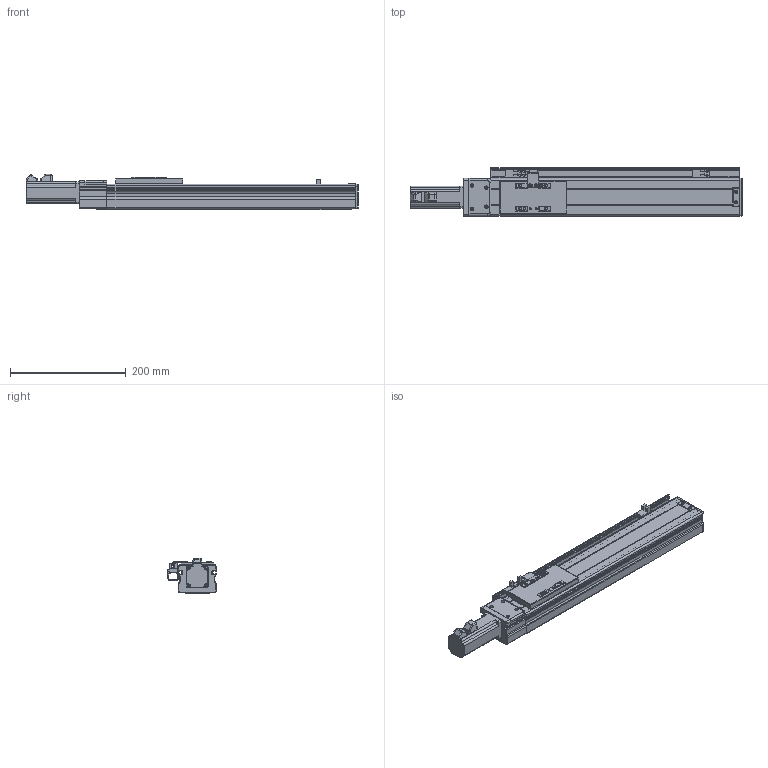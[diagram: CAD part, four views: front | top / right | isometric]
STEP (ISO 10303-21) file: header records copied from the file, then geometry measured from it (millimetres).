
FILE_DESCRIPTION (( 'STEP AP203' ), '1' );
FILE_NAME ('VT6-L10-C-S280-BC-P10-C4.STEP', '2015-10-26T05:57:05', ( '' ), ( '' ), 'SwSTEP 2.0', 'SolidWorks 2013', '' );
FILE_SCHEMA (( 'CONFIG_CONTROL_DESIGN' ));
Length unit declared in the file: millimetre
Products named in the file (15): ET6-BC耜啣_280; ET6-BC癹弇羲壽羞_280; T6-賑雄殤; T6-裔啣; T6-揤輸; T6-覜茼え; T6-綴傷裔; EE-XS674; ET6-BC絳寢_俴最280; ET6-BC滅鳥湍_280; T6-BCヶ傷裔揤啣; T6-BCヶ傷裔; 侂狟100W MSMD012G1U; ET6-BC佪裝_280; VT6-L10-C-S280-BC-P10-C4
Assembly tree (17 placements, depth 2):
  VT6-L10-C-S280-BC-P10-C4
    ET6-BC耜啣_280  x2
    ET6-BC癹弇羲壽羞_280
    T6-賑雄殤
    T6-裔啣
    T6-揤輸
    T6-覜茼え
    T6-綴傷裔
    EE-XS674  x3
    ET6-BC絳寢_俴最280
    ET6-BC滅鳥湍_280
    T6-BCヶ傷裔揤啣
    T6-BCヶ傷裔
    侂狟100W MSMD012G1U
    ET6-BC佪裝_280
Bounding box: 574 x 83 x 61 mm (x, y, z)
Volume: 707090.1 mm3; surface area: 373110.1 mm2
Topology: 17 solids, 17 shells, 872 faces, 2301 edges, 1452 vertices
Faces by surface type: cylinder 392, plane 378, cone 56, torus 28, sphere 18
Entity records: 26662 total; most frequent: CARTESIAN_POINT 4633, DIRECTION 4437, ORIENTED_EDGE 4128, EDGE_CURVE 2064, AXIS2_PLACEMENT_3D 1608, VERTEX_POINT 1312, LINE 1221, VECTOR 1221
